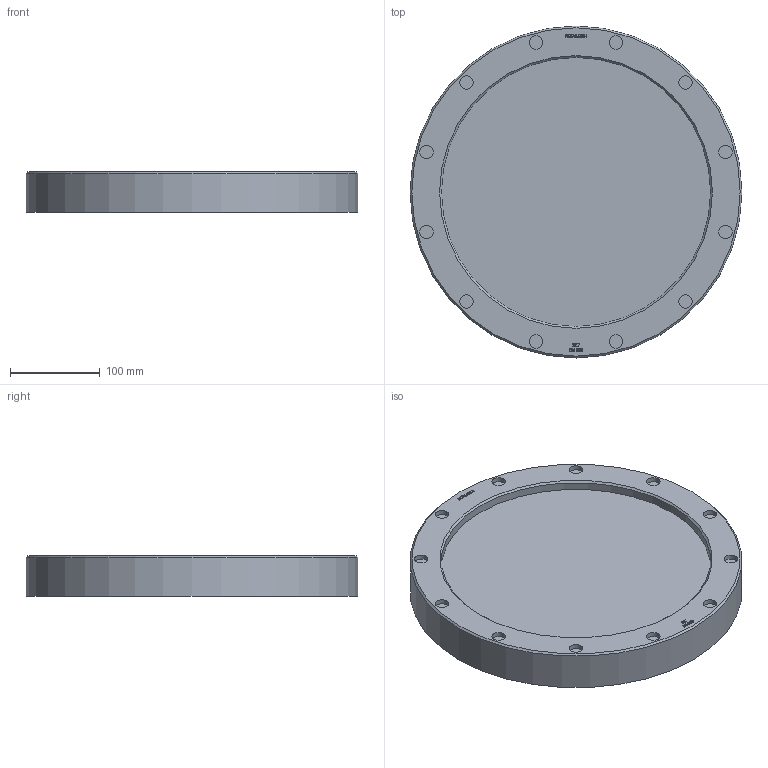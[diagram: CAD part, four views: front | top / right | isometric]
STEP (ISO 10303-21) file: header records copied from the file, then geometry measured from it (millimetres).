
FILE_DESCRIPTION(/* description */ (''),/* implementation_level */ '2;1');
FILE_NAME(/* name */ 'W:\Konstruktion_ACI\317\_STEP\ACI-317-300.stp',/* time_stamp */ '2022-03-02T17:52:46+01:00',/* author */ ('Travnicek'),/* organization */ (''),/* preprocessor_version */ 'ST-DEVELOPER v16.1',/* originating_system */ 'Autodesk Inventor 2016',/* authorisation */ '');
FILE_SCHEMA (('AUTOMOTIVE_DESIGN { 1 0 10303 214 3 1 1 }'));
Length unit declared in the file: centimetre
Products named in the file (1): ACI-317-300.stp
Bounding box: 370 x 370 x 45 mm (x, y, z)
Volume: 2977340.7 mm3; surface area: 290281.2 mm2
Topology: 1 solids, 1 shells, 302 faces, 786 edges, 523 vertices
Faces by surface type: plane 156, bspline 128, cylinder 15, cone 3
Full cylindrical faces by diameter (mm): 15 x12, 300 x2, 370 x1
Entity records: 10095 total; most frequent: CARTESIAN_POINT 3258, ORIENTED_EDGE 1536, DIRECTION 895, EDGE_CURVE 768, VERTEX_POINT 523, LINE 479, VECTOR 479, EDGE_LOOP 357
